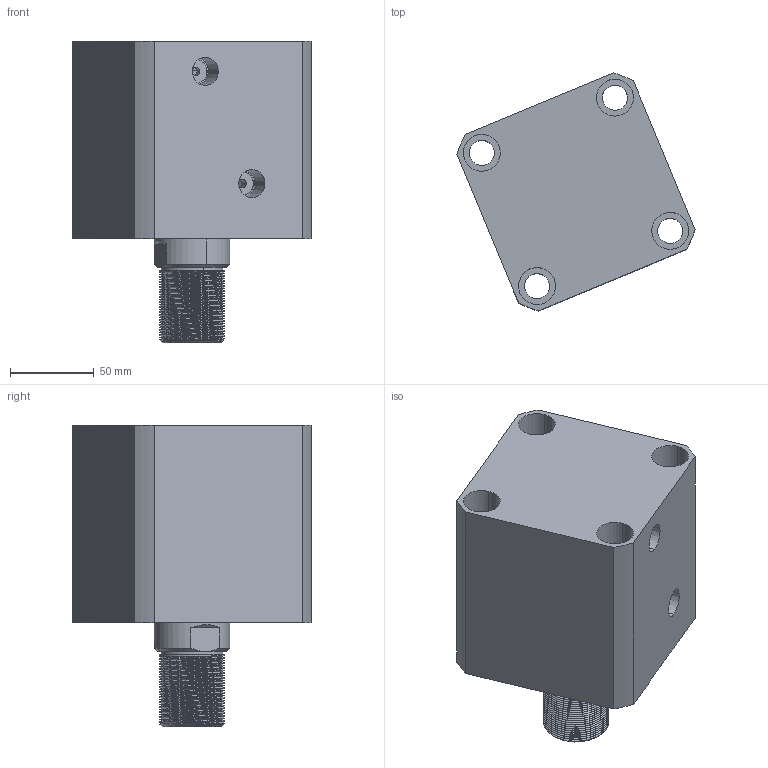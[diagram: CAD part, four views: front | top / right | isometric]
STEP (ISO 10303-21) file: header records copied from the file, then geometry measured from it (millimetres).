
FILE_DESCRIPTION (( 'STEP AP214' ), '1' );
FILE_NAME ('chtb-sd80x40n_asm.STEP', '2018-05-26T09:41:56', ( 'Windows' ), ( 'Microsoft' ), 'SwSTEP 2.0', 'SolidWorks 2015', '' );
FILE_SCHEMA (( 'AUTOMOTIVE_DESIGN' ));
Length unit declared in the file: millimetre
Products named in the file (4): CHTB-SD80X40NHSG; CHTB-SD80X40NBT; CHTB-SD80QG; chtb-sd80x40n_asm
Assembly tree (3 placements, depth 2):
  chtb-sd80x40n_asm
    CHTB-SD80QG
    CHTB-SD80X40NBT
    CHTB-SD80X40NHSG
Bounding box: 142.06 x 142.06 x 180 mm (x, y, z)
Volume: 1325175.2 mm3; surface area: 197027.6 mm2
Topology: 3 solids, 3 shells, 253 faces, 689 edges, 462 vertices
Faces by surface type: cylinder 159, plane 40, cone 20, torus 18, bspline 16
Entity records: 20271 total; most frequent: CARTESIAN_POINT 14293, ORIENTED_EDGE 1370, DIRECTION 1078, EDGE_CURVE 685, VERTEX_POINT 462, AXIS2_PLACEMENT_3D 439, EDGE_LOOP 291, FACE_OUTER_BOUND 253
